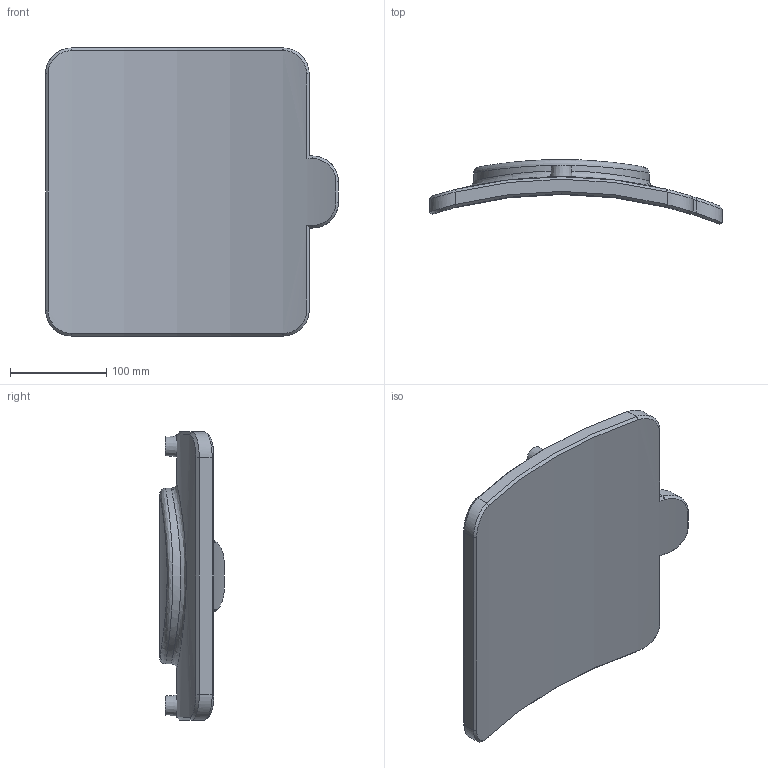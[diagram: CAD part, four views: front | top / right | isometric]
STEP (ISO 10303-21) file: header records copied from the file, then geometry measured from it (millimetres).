
FILE_DESCRIPTION(/* description */ ('Repair Saddle 250-900mm'),/* implementation_level */ '2;1');
FILE_NAME(/* name */ 'C:\Dropbox\KIMPROJECTS-Inventor 2019\99-16-3568-Processing\ElectroFusion Fittings\49520\stp\495204900070.stp',/* time_stamp */ '2023-08-29T11:16:55+03:00',/* author */ ('Kirill'),/* organization */ (''),/* preprocessor_version */ 'ST-DEVELOPER v17.2',/* originating_system */ 'Autodesk Inventor 2019',/* authorisation */ '');
FILE_SCHEMA (('AUTOMOTIVE_DESIGN { 1 0 10303 214 3 1 1 }'));
Length unit declared in the file: millimetre
Products named in the file (1): 495204900070
Bounding box: 305 x 67.44 x 300 mm (x, y, z)
Volume: 2002972.9 mm3; surface area: 199487.7 mm2
Topology: 1 solids, 1 shells, 72 faces, 171 edges, 108 vertices
Faces by surface type: bspline 26, plane 22, cylinder 14, cone 10
Full cylindrical faces by diameter (mm): 7 x2, 14 x2, 183 x1
Entity records: 3363 total; most frequent: CARTESIAN_POINT 1850, ORIENTED_EDGE 344, DIRECTION 224, EDGE_CURVE 172, VERTEX_POINT 109, EDGE_LOOP 79, AXIS2_PLACEMENT_3D 75, LINE 74
